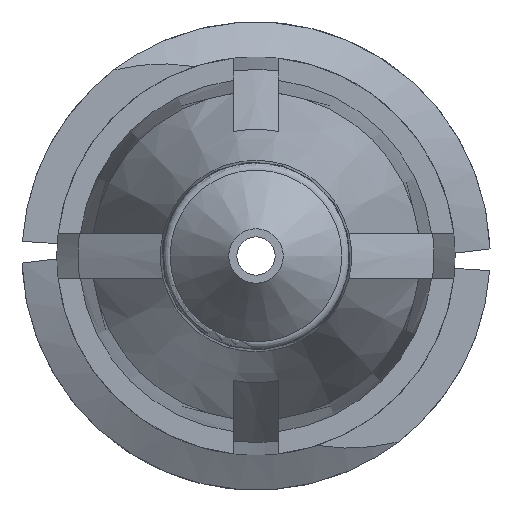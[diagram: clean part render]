
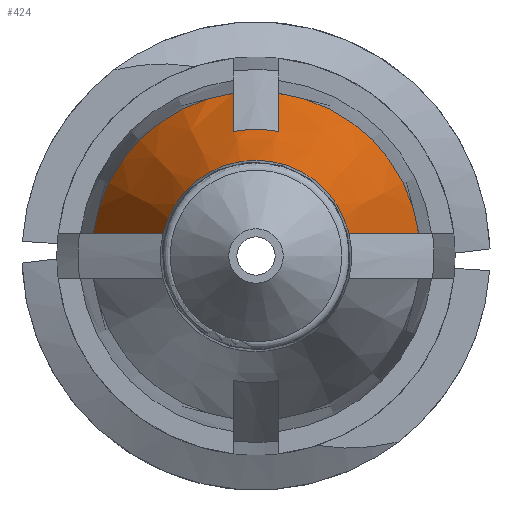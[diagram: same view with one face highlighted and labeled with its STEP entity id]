
A CAD part, front view. The second image highlights one B-rep face of the part: STEP entity #424.
In plain terms, the highlighted conical face has half-angle 20 degrees and reference radius 2.745 mm.
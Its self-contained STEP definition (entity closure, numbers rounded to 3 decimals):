
#7 = DIRECTION ( 'NONE',  ( 1., 0., 0. ) ) ;
#38 = VERTEX_POINT ( 'NONE', #237 ) ;
#54 = EDGE_CURVE ( 'NONE', #1122, #443, #123, .T. ) ;
#56 = CONICAL_SURFACE ( 'NONE', #1860, 2.745, 0.349 ) ;
#70 = EDGE_CURVE ( 'NONE', #1205, #38, #1110, .T. ) ;
#99 = CARTESIAN_POINT ( 'NONE',  ( -1.554, -13.458, 0.381 ) ) ;
#105 = EDGE_CURVE ( 'NONE', #1547, #507, #1874, .T. ) ;
#109 = CARTESIAN_POINT ( 'NONE',  ( 0., -13.458, 0. ) ) ;
#123 = B_SPLINE_CURVE_WITH_KNOTS ( 'NONE', 3,
 ( #727, #1362, #1016, #1170 ),
 .UNSPECIFIED., .F., .F.,
 ( 4, 4 ),
 ( 0.003, 0.005 ),
 .UNSPECIFIED. ) ;
#153 = AXIS2_PLACEMENT_3D ( 'NONE', #109, #1575, #757 ) ;
#155 = EDGE_CURVE ( 'NONE', #507, #664, #897, .T. ) ;
#168 = CARTESIAN_POINT ( 'NONE',  ( 2.719, -10.312, 0.381 ) ) ;
#169 = CARTESIAN_POINT ( 'NONE',  ( -0.381, -12.038, 2.082 ) ) ;
#220 = ORIENTED_EDGE ( 'NONE', *, *, #1668, .F. ) ;
#228 = CIRCLE ( 'NONE', #837, 2.117 ) ;
#237 = CARTESIAN_POINT ( 'NONE',  ( -0.381, -10.312, 2.719 ) ) ;
#323 = DIRECTION ( 'NONE',  ( 0., 1., 0. ) ) ;
#328 = CARTESIAN_POINT ( 'NONE',  ( 1.554, -13.458, 0.381 ) ) ;
#341 = EDGE_CURVE ( 'NONE', #1537, #664, #1504, .T. ) ;
#375 = ORIENTED_EDGE ( 'NONE', *, *, #341, .F. ) ;
#384 = CARTESIAN_POINT ( 'NONE',  ( -0.381, -10.312, 2.719 ) ) ;
#424 = ADVANCED_FACE ( 'NONE', ( #810 ), #56, .T. ) ;
#443 = VERTEX_POINT ( 'NONE', #1210 ) ;
#481 = DIRECTION ( 'NONE',  ( 0., -1., 0. ) ) ;
#507 = VERTEX_POINT ( 'NONE', #99 ) ;
#562 = DIRECTION ( 'NONE',  ( 1., 0., 0. ) ) ;
#664 = VERTEX_POINT ( 'NONE', #328 ) ;
#706 = CIRCLE ( 'NONE', #1524, 2.745 ) ;
#713 = CARTESIAN_POINT ( 'NONE',  ( 0., -10.312, 0. ) ) ;
#727 = CARTESIAN_POINT ( 'NONE',  ( 0.381, -10.312, 2.719 ) ) ;
#750 = CARTESIAN_POINT ( 'NONE',  ( 0.381, -10.312, 2.719 ) ) ;
#757 = DIRECTION ( 'NONE',  ( 1., 0., 0. ) ) ;
#810 = FACE_OUTER_BOUND ( 'NONE', #1906, .T. ) ;
#837 = AXIS2_PLACEMENT_3D ( 'NONE', #1317, #481, #1942 ) ;
#848 = DIRECTION ( 'NONE',  ( 0., 1., 0. ) ) ;
#861 = CARTESIAN_POINT ( 'NONE',  ( -0.381, -10.888, 2.507 ) ) ;
#870 = ORIENTED_EDGE ( 'NONE', *, *, #155, .T. ) ;
#883 = CARTESIAN_POINT ( 'NONE',  ( -2.333, -11.362, 0.381 ) ) ;
#897 = CIRCLE ( 'NONE', #153, 1.6 ) ;
#899 = CARTESIAN_POINT ( 'NONE',  ( 2.719, -10.312, 0.381 ) ) ;
#908 = EDGE_CURVE ( 'NONE', #443, #1205, #228, .T. ) ;
#982 = CARTESIAN_POINT ( 'NONE',  ( 0., -10.312, 0. ) ) ;
#1012 = DIRECTION ( 'NONE',  ( 1., 0., 0. ) ) ;
#1016 = CARTESIAN_POINT ( 'NONE',  ( 0.381, -11.463, 2.295 ) ) ;
#1042 = ORIENTED_EDGE ( 'NONE', *, *, #105, .T. ) ;
#1048 = CARTESIAN_POINT ( 'NONE',  ( -0.381, -11.463, 2.295 ) ) ;
#1077 = CIRCLE ( 'NONE', #1345, 2.745 ) ;
#1110 = B_SPLINE_CURVE_WITH_KNOTS ( 'NONE', 3,
 ( #1351, #1048, #861, #384 ),
 .UNSPECIFIED., .F., .F.,
 ( 4, 4 ),
 ( 0.002, 0.004 ),
 .UNSPECIFIED. ) ;
#1122 = VERTEX_POINT ( 'NONE', #750 ) ;
#1125 = DIRECTION ( 'NONE',  ( 0., 1., 0. ) ) ;
#1134 = CARTESIAN_POINT ( 'NONE',  ( 0., -10.312, 0. ) ) ;
#1157 = CARTESIAN_POINT ( 'NONE',  ( 1.947, -12.411, 0.381 ) ) ;
#1170 = CARTESIAN_POINT ( 'NONE',  ( 0.381, -12.038, 2.082 ) ) ;
#1198 = ORIENTED_EDGE ( 'NONE', *, *, #908, .T. ) ;
#1205 = VERTEX_POINT ( 'NONE', #169 ) ;
#1210 = CARTESIAN_POINT ( 'NONE',  ( 0.381, -12.038, 2.082 ) ) ;
#1317 = CARTESIAN_POINT ( 'NONE',  ( 0., -12.038, 0. ) ) ;
#1345 = AXIS2_PLACEMENT_3D ( 'NONE', #713, #848, #1012 ) ;
#1351 = CARTESIAN_POINT ( 'NONE',  ( -0.381, -12.038, 2.082 ) ) ;
#1362 = CARTESIAN_POINT ( 'NONE',  ( 0.381, -10.888, 2.507 ) ) ;
#1370 = CARTESIAN_POINT ( 'NONE',  ( -1.554, -13.458, 0.381 ) ) ;
#1432 = CARTESIAN_POINT ( 'NONE',  ( -2.719, -10.312, 0.381 ) ) ;
#1504 = B_SPLINE_CURVE_WITH_KNOTS ( 'NONE', 3,
 ( #168, #1921, #1157, #1807 ),
 .UNSPECIFIED., .F., .F.,
 ( 4, 4 ),
 ( 0.003, 0.007 ),
 .UNSPECIFIED. ) ;
#1513 = CARTESIAN_POINT ( 'NONE',  ( -2.719, -10.312, 0.381 ) ) ;
#1524 = AXIS2_PLACEMENT_3D ( 'NONE', #982, #1125, #7 ) ;
#1537 = VERTEX_POINT ( 'NONE', #899 ) ;
#1547 = VERTEX_POINT ( 'NONE', #1432 ) ;
#1575 = DIRECTION ( 'NONE',  ( 0., 1., 0. ) ) ;
#1599 = ORIENTED_EDGE ( 'NONE', *, *, #70, .T. ) ;
#1623 = ORIENTED_EDGE ( 'NONE', *, *, #1785, .F. ) ;
#1668 = EDGE_CURVE ( 'NONE', #1122, #1537, #706, .T. ) ;
#1696 = CARTESIAN_POINT ( 'NONE',  ( -1.947, -12.411, 0.381 ) ) ;
#1785 = EDGE_CURVE ( 'NONE', #1547, #38, #1077, .T. ) ;
#1807 = CARTESIAN_POINT ( 'NONE',  ( 1.554, -13.458, 0.381 ) ) ;
#1860 = AXIS2_PLACEMENT_3D ( 'NONE', #1134, #323, #562 ) ;
#1874 = B_SPLINE_CURVE_WITH_KNOTS ( 'NONE', 3,
 ( #1513, #883, #1696, #1370 ),
 .UNSPECIFIED., .F., .F.,
 ( 4, 4 ),
 ( 0.003, 0.007 ),
 .UNSPECIFIED. ) ;
#1906 = EDGE_LOOP ( 'NONE', ( #375, #220, #1924, #1198, #1599, #1623, #1042, #870 ) ) ;
#1921 = CARTESIAN_POINT ( 'NONE',  ( 2.333, -11.362, 0.381 ) ) ;
#1924 = ORIENTED_EDGE ( 'NONE', *, *, #54, .T. ) ;
#1942 = DIRECTION ( 'NONE',  ( -1., 0., 0. ) ) ;
